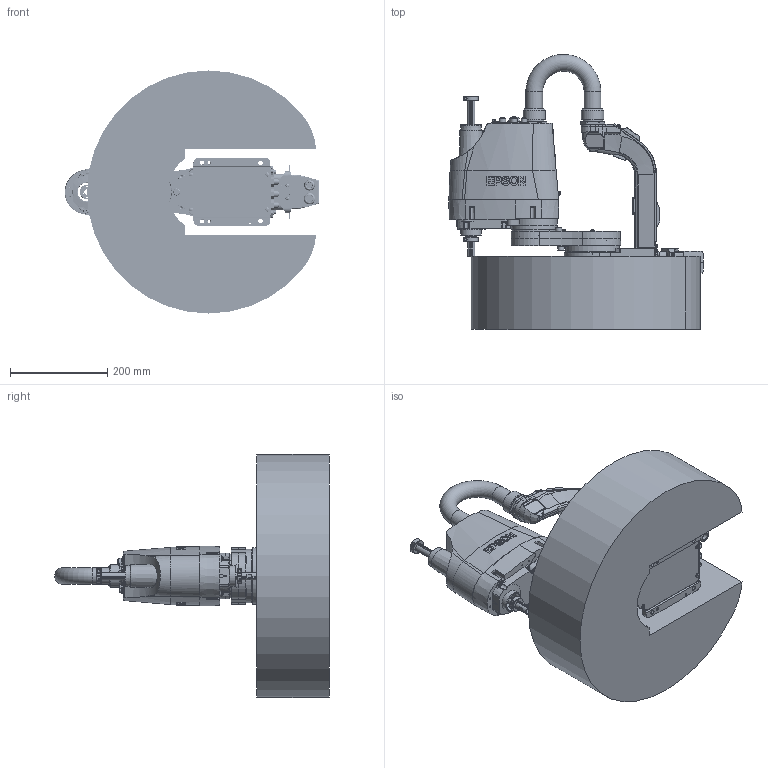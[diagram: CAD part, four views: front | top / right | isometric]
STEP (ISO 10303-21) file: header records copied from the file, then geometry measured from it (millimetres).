
FILE_DESCRIPTION( ( 'STEP AP214' ), '1' );
FILE_NAME( 'C:/Users/9607552/Desktop/GX4-A/GX4-A251SA-W.stp', '2023-04-07T04:33:16', ( '' ), ( '' ), ' ', 'PARTsolutions', ' ' );
FILE_SCHEMA( ( 'AUTOMOTIVE_DESIGN { 1 0 10303 214 1 1 1 1 }' ) );
Length unit declared in the file: millimetre
Products named in the file (8): GX4-A251SA-W; _A251S-b; _A251S_J1_ARM; _A251S-a; _A251S_CONDUIT; _A251S; _Angle; _GX4-21_WS
Assembly tree (7 placements, depth 2):
  GX4-A251SA-W
    _A251S-b
    _A251S_J1_ARM
    _A251S-a
    _A251S_CONDUIT
    _A251S
    _Angle
    _GX4-21_WS
Bounding box: 523.26 x 565.63 x 500 mm (x, y, z)
Volume: 29263670 mm3; surface area: 1284332.9 mm2
Topology: 7 solids, 7 shells, 3898 faces, 9584 edges, 6234 vertices
Faces by surface type: plane 2271, cylinder 1081, cone 339, torus 114, bspline 90, sphere 3
Full cylindrical faces by diameter (mm): 1 x30, 1.13 x55, 1.18 x55, 2.459 x4, 2.5 x18, 2.99 x1, 3 x47, 3.2 x4, 3.242 x1, 3.3 x39, 3.4 x32, 3.5 x12, 4 x3, 4.5 x16, 4.8 x8, 4.917 x2, 5.34 x8, 5.4 x14, 5.5 x26, 5.6 x4, 5.68 x4, 6 x21, 6.5 x12, 6.7 x4, 6.8 x4, 7 x44, 7.1 x4, 8 x16, 8.2 x8, 8.3 x4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
Entity records: 147193 total; most frequent: CARTESIAN_POINT 28681, ORIENTED_EDGE 17304, DIRECTION 17261, EDGE_CURVE 8652, AXIS2_PLACEMENT_3D 6553, VERTEX_POINT 6138, EDGE_LOOP 5325, FACE_OUTER_BOUND 4540
